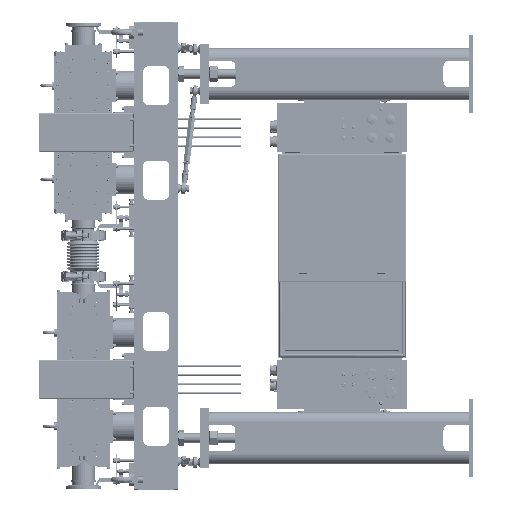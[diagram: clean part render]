
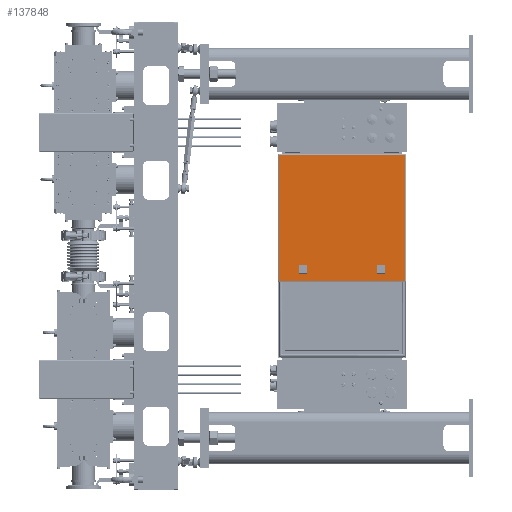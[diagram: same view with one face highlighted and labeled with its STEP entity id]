
A CAD part, left-side view. The second image highlights one B-rep face of the part: STEP entity #137848.
In plain terms, the highlighted planar face has unit normal (-1, 0, 0) as drawn and (0, 0, 1) by its records, which use the part's own axes.
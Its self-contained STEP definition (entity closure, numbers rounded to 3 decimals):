
#12622=FACE_BOUND('',#29484,.T.);
#12623=FACE_BOUND('',#29485,.T.);
#14968=PLANE('',#153731);
#21215=FACE_OUTER_BOUND('',#29483,.T.);
#29483=EDGE_LOOP('',(#118174,#118175,#118176,#118177));
#29484=EDGE_LOOP('',(#118178,#118179,#118180,#118181));
#29485=EDGE_LOOP('',(#118182,#118183,#118184,#118185));
#38033=LINE('',#337559,#48184);
#38036=LINE('',#337565,#48187);
#38039=LINE('',#337571,#48190);
#38042=LINE('',#337575,#48193);
#38045=LINE('',#337583,#48196);
#38048=LINE('',#337589,#48199);
#38051=LINE('',#337595,#48202);
#38054=LINE('',#337599,#48205);
#38152=LINE('',#337907,#48303);
#38156=LINE('',#337914,#48307);
#38176=LINE('',#337969,#48327);
#38177=LINE('',#337970,#48328);
#48184=VECTOR('',#185247,10.);
#48187=VECTOR('',#185252,10.);
#48190=VECTOR('',#185257,10.);
#48193=VECTOR('',#185262,10.);
#48196=VECTOR('',#185267,10.);
#48199=VECTOR('',#185272,10.);
#48202=VECTOR('',#185277,10.);
#48205=VECTOR('',#185282,10.);
#48303=VECTOR('',#185610,10.);
#48307=VECTOR('',#185620,10.);
#48327=VECTOR('',#185682,10.);
#48328=VECTOR('',#185683,10.);
#68203=VERTEX_POINT('',#337556);
#68204=VERTEX_POINT('',#337558);
#68206=VERTEX_POINT('',#337564);
#68208=VERTEX_POINT('',#337570);
#68211=VERTEX_POINT('',#337580);
#68212=VERTEX_POINT('',#337582);
#68214=VERTEX_POINT('',#337588);
#68216=VERTEX_POINT('',#337594);
#68283=VERTEX_POINT('',#337820);
#68293=VERTEX_POINT('',#337846);
#68295=VERTEX_POINT('',#337851);
#68311=VERTEX_POINT('',#337893);
#85489=EDGE_CURVE('',#68204,#68203,#38033,.T.);
#85492=EDGE_CURVE('',#68206,#68204,#38036,.T.);
#85495=EDGE_CURVE('',#68208,#68206,#38039,.T.);
#85498=EDGE_CURVE('',#68203,#68208,#38042,.T.);
#85501=EDGE_CURVE('',#68212,#68211,#38045,.T.);
#85504=EDGE_CURVE('',#68214,#68212,#38048,.T.);
#85507=EDGE_CURVE('',#68216,#68214,#38051,.T.);
#85510=EDGE_CURVE('',#68211,#68216,#38054,.T.);
#85664=EDGE_CURVE('',#68293,#68295,#38152,.T.);
#85668=EDGE_CURVE('',#68311,#68283,#38156,.T.);
#85696=EDGE_CURVE('',#68293,#68283,#38176,.T.);
#85697=EDGE_CURVE('',#68311,#68295,#38177,.T.);
#118174=ORIENTED_EDGE('',*,*,#85668,.T.);
#118175=ORIENTED_EDGE('',*,*,#85696,.F.);
#118176=ORIENTED_EDGE('',*,*,#85664,.T.);
#118177=ORIENTED_EDGE('',*,*,#85697,.F.);
#118178=ORIENTED_EDGE('',*,*,#85489,.T.);
#118179=ORIENTED_EDGE('',*,*,#85498,.T.);
#118180=ORIENTED_EDGE('',*,*,#85495,.T.);
#118181=ORIENTED_EDGE('',*,*,#85492,.T.);
#118182=ORIENTED_EDGE('',*,*,#85501,.T.);
#118183=ORIENTED_EDGE('',*,*,#85510,.T.);
#118184=ORIENTED_EDGE('',*,*,#85507,.T.);
#118185=ORIENTED_EDGE('',*,*,#85504,.T.);
#137848=ADVANCED_FACE('',(#21215,#12622,#12623),#14968,.T.);
#153731=AXIS2_PLACEMENT_3D('',#337968,#185680,#185681);
#185247=DIRECTION('',(-1.,0.,0.));
#185252=DIRECTION('',(0.,-1.,0.));
#185257=DIRECTION('',(1.,0.,0.));
#185262=DIRECTION('',(0.,1.,0.));
#185267=DIRECTION('',(-1.,0.,0.));
#185272=DIRECTION('',(0.,-1.,0.));
#185277=DIRECTION('',(1.,0.,0.));
#185282=DIRECTION('',(0.,1.,0.));
#185610=DIRECTION('',(0.,-1.,0.));
#185620=DIRECTION('',(0.,1.,0.));
#185680=DIRECTION('center_axis',(0.,0.,1.));
#185681=DIRECTION('ref_axis',(1.,0.,0.));
#185682=DIRECTION('',(1.,0.,0.));
#185683=DIRECTION('',(-1.,0.,0.));
#337556=CARTESIAN_POINT('',(-211.05,138.95,0.));
#337558=CARTESIAN_POINT('',(-188.95,138.95,0.));
#337559=CARTESIAN_POINT('',(-105.525,138.95,0.));
#337564=CARTESIAN_POINT('',(-188.95,161.05,0.));
#337565=CARTESIAN_POINT('',(-188.95,-51.525,0.));
#337570=CARTESIAN_POINT('',(-211.05,161.05,0.));
#337571=CARTESIAN_POINT('',(-94.475,161.05,0.));
#337575=CARTESIAN_POINT('',(-211.05,-40.475,0.));
#337580=CARTESIAN_POINT('',(-211.05,-161.05,0.));
#337582=CARTESIAN_POINT('',(-188.95,-161.05,0.));
#337583=CARTESIAN_POINT('',(-105.525,-161.05,0.));
#337588=CARTESIAN_POINT('',(-188.95,-138.95,0.));
#337589=CARTESIAN_POINT('',(-188.95,-201.525,0.));
#337594=CARTESIAN_POINT('',(-211.05,-138.95,0.));
#337595=CARTESIAN_POINT('',(-94.475,-138.95,0.));
#337599=CARTESIAN_POINT('',(-211.05,-190.475,0.));
#337820=CARTESIAN_POINT('',(242.,242.,0.));
#337846=CARTESIAN_POINT('',(-242.,242.,0.));
#337851=CARTESIAN_POINT('',(-242.,-242.,0.));
#337893=CARTESIAN_POINT('',(242.,-242.,0.));
#337907=CARTESIAN_POINT('',(-242.,242.,0.));
#337914=CARTESIAN_POINT('',(242.,242.,0.));
#337968=CARTESIAN_POINT('Origin',(0.,-242.,0.));
#337969=CARTESIAN_POINT('',(0.,242.,0.));
#337970=CARTESIAN_POINT('',(0.,-242.,0.));
